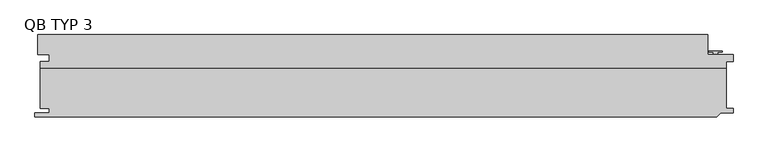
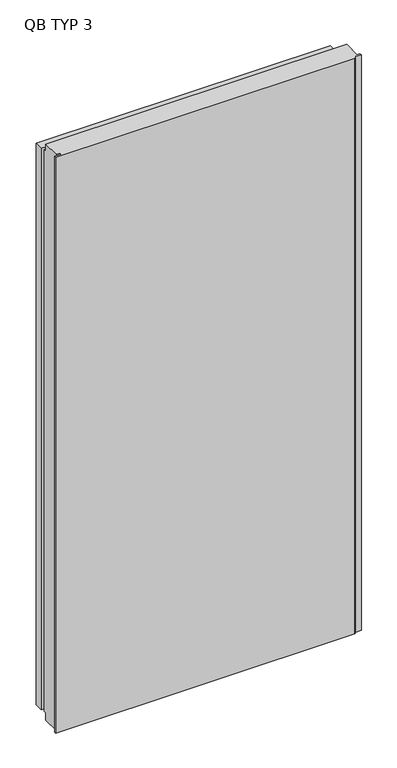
"""IFC4 building model written with IfcOpenShell, lengths in millimetres: plate geometry, TR_C_V_QBISS_Panel : QB TYP 3."""

from ifc_helpers import new_model, si_unit, frame, origin, place, context, project, spatial, polyline, outline, extrude, faceted_brep, source, transform, mapped, element, save


def qb_typ_3_8dd94ec6(model_context):
    return source(origin(), model_context, "Body", "SolidModel", [
        faceted_brep([(-499.9999997, -108.0, 2007.9), (-487.0, -108.0, 2007.9), (-487.0, -114.0, 2007.9), (-508.0, -114.0, 2007.9), (-508.0, -120.0, 2007.9), (485.9999998, -120.0, 2007.9), (492.0, -114.0, 2007.9), (510.0, -114.0, 2007.9), (510.0, -108.0, 2007.9), (500.0, -108.0, 2007.9), (500.0, -49.0, 2007.9), (-499.9999997, -49.0, 2007.9), (500.0, -108.0, -12.4), (510.0, -108.0, -12.4), (510.0, -114.0, -12.4), (492.0, -114.0, -12.4), (485.9999998, -120.0, -12.4), (-508.0, -120.0, -12.4), (-508.0, -114.0, -12.4), (-487.0, -114.0, -12.4), (-487.0, -108.0, -12.4), (-499.9999997, -108.0, -12.4), (-499.9999997, -49.0, -12.4), (500.0, -49.0, -12.4), (-499.9999997, -49.0, 12.7), (500.0, -49.0, 12.7), (-499.9999997, -39.0, 12.7), (-487.0, -39.0, 12.7), (-487.0, -29.0, 12.7), (-504.0, -29.0, 12.7), (-504.0, 0.0, 12.7), (473.0, 0.0, 12.7), (473.0, -29.0, 12.7), (510.0, -29.0, 12.7), (510.0, -39.0, 12.7), (500.0, -39.0, 12.7), (500.0, -39.0, 1982.8), (500.0, -49.0, 1982.8), (510.0, -39.0, 1982.8), (510.0, -29.0, 1982.8), (473.0, -29.0, 1982.8), (473.0, 0.0, 1982.8), (-504.0, 0.0, 1982.8), (-504.0, -29.0, 1982.8), (-487.0, -29.0, 1982.8), (-487.0, -39.0, 1982.8), (-499.9999997, -39.0, 1982.8), (-499.9999997, -49.0, 1982.8)], [[[0, 1, 2, 3, 4, 5, 6, 7, 8, 9, 10, 11]], [[12, 13, 14, 15, 16, 17, 18, 19, 20, 21, 22, 23]], [[24, 25, 23, 22]], [[25, 24, 26, 27, 28, 29, 30, 31, 32, 33, 34, 35]], [[1, 0, 21, 20]], [[2, 1, 20, 19]], [[3, 2, 19, 18]], [[4, 3, 18, 17]], [[5, 4, 17, 16]], [[6, 5, 16, 15]], [[7, 6, 15, 14]], [[8, 7, 14, 13]], [[9, 8, 13, 12]], [[9, 12, 23, 25, 35, 36, 37, 10]], [[35, 34, 38, 36]], [[34, 33, 39, 38]], [[33, 32, 40, 39]], [[32, 31, 41, 40]], [[31, 30, 42, 41]], [[30, 29, 43, 42]], [[29, 28, 44, 43]], [[28, 27, 45, 44]], [[27, 26, 46, 45]], [[21, 0, 11, 47, 46, 26, 24, 22]], [[37, 47, 11, 10]], [[47, 37, 36, 38, 39, 40, 41, 42, 43, 44, 45, 46]]]),
        extrude(outline(polyline([(494.5, -24.0), (494.5, -25.4998317), (487.7023593, -25.4998317), (487.7023593, -27.9998293), (488.5023593, -27.9998293), (488.5023593, -28.7998428), (480.5023028, -28.7998428), (480.5023028, -27.9998293), (481.3023028, -27.9998293), (481.3023028, -25.4998317), (474.5, -25.4998317), (474.5, -24.0), (494.5, -24.0)])), frame((0.0, 0.0, 12.5), z_axis=(0.0, 0.0, 1.0), x_axis=(1.0, 0.0, 0.0)), (0.0, 0.0, 1.0), 1970.5),
    ])


if __name__ == "__main__":
    model = new_model("IFC4")
    model_context = context("Model", 3, world=origin())
    ifc_project = project(units=[si_unit("LENGTHUNIT", "METRE", prefix="MILLI")], contexts=[model_context])
    site = spatial("IfcSite", under=ifc_project)
    building = spatial("IfcBuilding", under=site)
    placement = place(None, origin())
    qb_typ_3_shape = qb_typ_3_8dd94ec6(model_context)
    element("IfcPlate", 1, ObjectType="TR_C_V_QBISS_Panel : QB TYP 3", at=placement, inside=building, context=model_context, shape_type="MappedRepresentation", body=[
        mapped(qb_typ_3_shape, transform((0.0, 0.0, 0.0), x_axis=(1.0, 0.0, 0.0), y_axis=(0.0, 1.0, 0.0), z_axis=(0.0, 0.0, 1.0))),
    ])
    save(model, "model.ifc")
